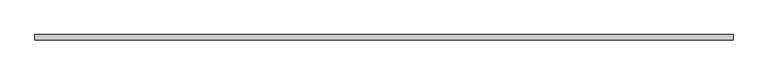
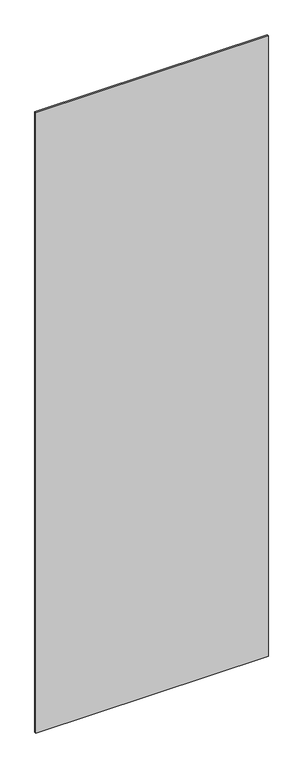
"""IFC4 building model written with IfcOpenShell, lengths in millimetres: plate geometry, システム パネル : 標準."""

from ifc_helpers import new_model, si_unit, origin, origin_with_axes, place, context, project, spatial, polyline, outline, extrude, source, transform, mapped, element, save


def plate_8a20ce8c(model_context):
    return source(origin(), model_context, "Body", "SweptSolid", [
        extrude(outline(polyline([(684.7662701, -5.0), (-684.7662701, -5.0), (-684.7662701, 5.0), (684.7662701, 5.0), (684.7662701, -5.0)])), origin_with_axes(), (0.0, 0.0, 1.0), 3860.0),
    ])


if __name__ == "__main__":
    model = new_model("IFC4")
    model_context = context("Model", 3, world=origin())
    ifc_project = project(units=[si_unit("LENGTHUNIT", "METRE", prefix="MILLI")], contexts=[model_context])
    site = spatial("IfcSite", under=ifc_project)
    building = spatial("IfcBuilding", under=site)
    placement = place(None, origin())
    plate_shape = plate_8a20ce8c(model_context)
    element("IfcPlate", 1, ObjectType="システム パネル : 標準", at=placement, inside=building, context=model_context, shape_type="MappedRepresentation", body=[
        mapped(plate_shape, transform((0.0, 0.0, 0.0), x_axis=(1.0, 0.0, 0.0), y_axis=(0.0, 1.0, 0.0), z_axis=(0.0, 0.0, 1.0))),
    ])
    save(model, "model.ifc")
